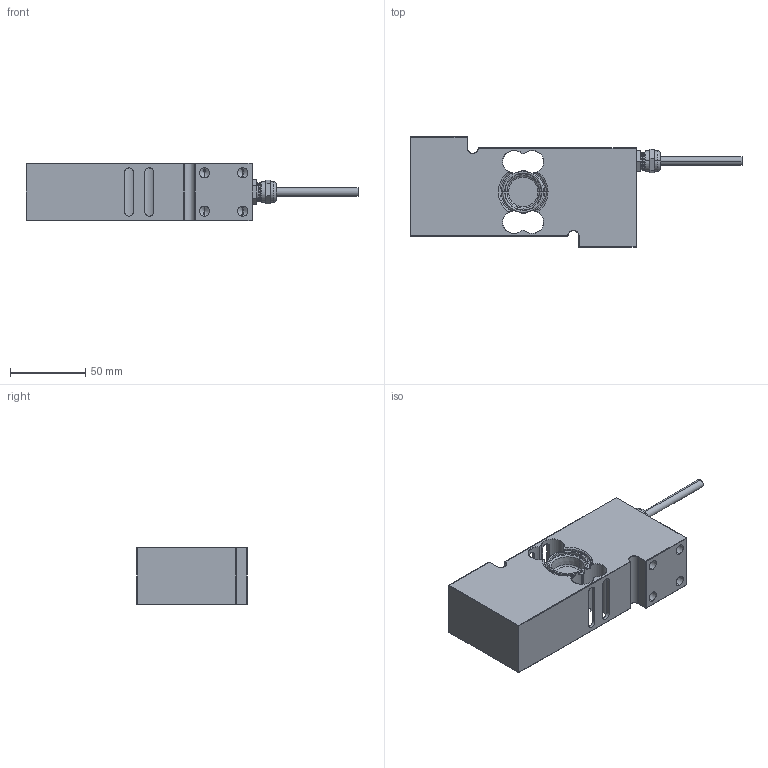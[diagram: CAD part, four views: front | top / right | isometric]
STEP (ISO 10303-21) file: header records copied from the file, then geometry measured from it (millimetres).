
FILE_DESCRIPTION (( 'STEP AP203' ), '1' );
FILE_NAME ('Load_Sensor_HISP7.STEP', '2014-10-08T23:22:05', ( '' ), ( '' ), 'SwSTEP 2.0', 'SolidWorks 2013', '' );
FILE_SCHEMA (( 'CONFIG_CONTROL_DESIGN' ));
Length unit declared in the file: millimetre
Products named in the file (5): Cable Nut; Cable; Load_Sensor_HISP7; HI SP7 Element; Cable Adapter
Assembly tree (4 placements, depth 2):
  Load_Sensor_HISP7
    HI SP7 Element
    Cable Adapter
    Cable Nut
    Cable
Bounding box: 220 x 73 x 38.1 mm (x, y, z)
Volume: 316696.1 mm3; surface area: 47194.7 mm2
Topology: 4 solids, 4 shells, 322 faces, 793 edges, 451 vertices
Faces by surface type: cylinder 134, torus 59, plane 57, cone 25, sphere 24, bspline 23
Entity records: 12840 total; most frequent: CARTESIAN_POINT 5097, DIRECTION 1568, ORIENTED_EDGE 1506, EDGE_CURVE 753, AXIS2_PLACEMENT_3D 649, VERTEX_POINT 451, EDGE_LOOP 350, CIRCLE 343
